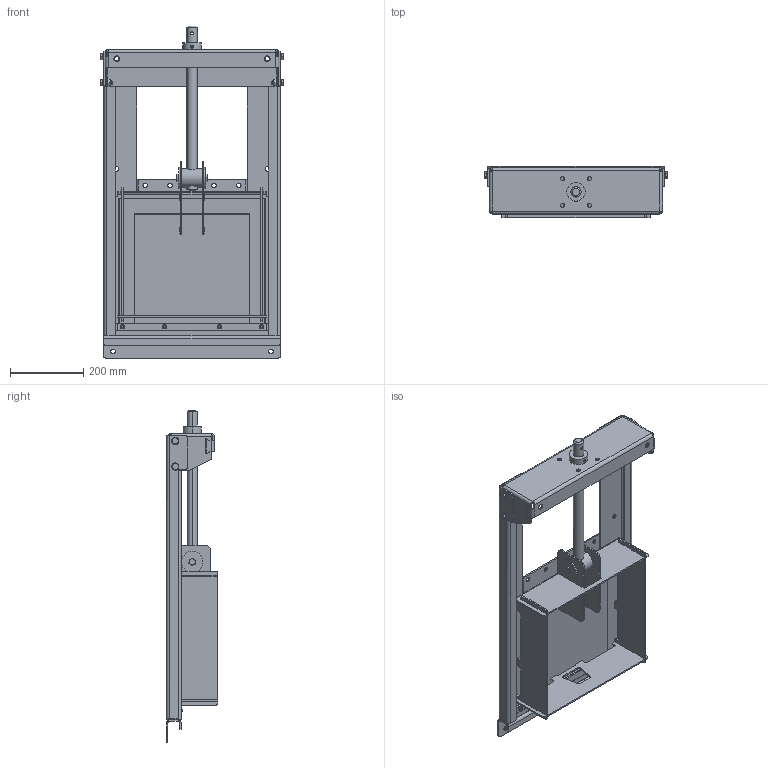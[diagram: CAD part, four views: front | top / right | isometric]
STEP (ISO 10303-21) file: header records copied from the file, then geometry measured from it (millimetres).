
FILE_DESCRIPTION (( 'STEP AP214' ), '1' );
FILE_NAME ('VGM620X-00EP0300.STEP', '2020-04-09T16:09:55', ( '' ), ( '' ), 'SwSTEP 2.0', 'SolidWorks 2017', '' );
FILE_SCHEMA (( 'AUTOMOTIVE_DESIGN' ));
Length unit declared in the file: millimetre
Products named in the file (1): VGM620X-00EP0300
Bounding box: 496.8 x 139 x 904 mm (x, y, z)
Volume: 4750117.5 mm3; surface area: 2153734.6 mm2
Topology: 69 solids, 69 shells, 1806 faces, 4668 edges, 3016 vertices
Faces by surface type: plane 859, cylinder 685, cone 226, bspline 36
Entity records: 79036 total; most frequent: CARTESIAN_POINT 13351, DIRECTION 9474, ORIENTED_EDGE 9320, EDGE_CURVE 4660, AXIS2_PLACEMENT_3D 3349, VERTEX_POINT 3016, LINE 2776, VECTOR 2776
